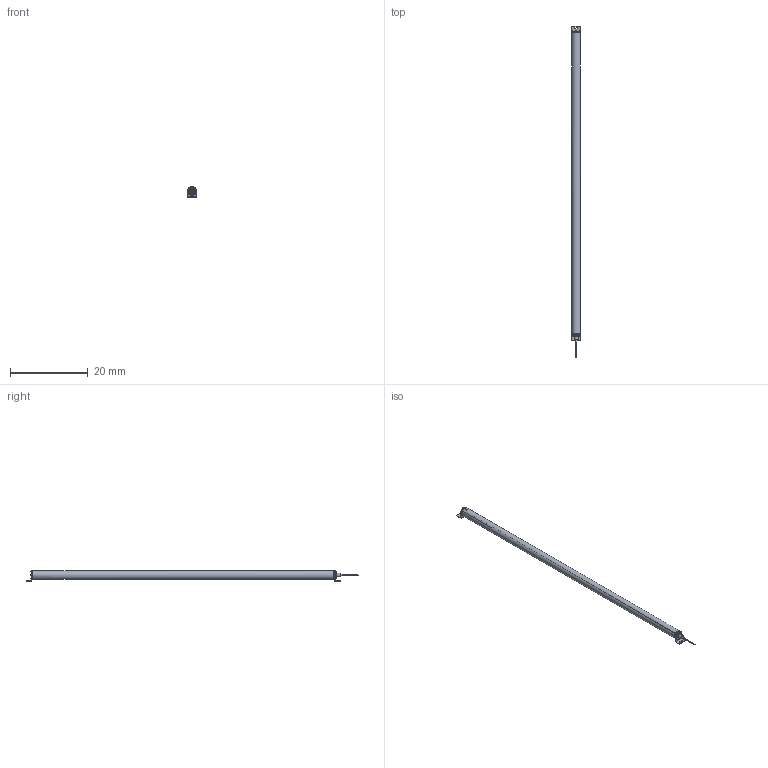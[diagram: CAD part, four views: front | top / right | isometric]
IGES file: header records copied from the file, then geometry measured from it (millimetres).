
Start section:  Autodesk DirectConnect version 7.0.27.0 ---- IGES version 5.3
Global section: file name: C:\ACADFILES\MG_PYLONS\CUSTOMER_FILES\MG-76-PYLON_3D_SMB_PT.iges; native system: Autodesk DirectConnect 7.0.27.0; preprocessor: 7.0.27.0; author: ENGINEERMAIN; organization: Unknown; date: 20150810.143500; units: millimetre
Bounding box: 2.26 x 85.44 x 2.75 mm (x, y, z)
Surface area: 2230.9 mm2 (no closed solid volume)
Topology: 0 solids, 0 shells, 784 faces, 4052 edges, 4055 vertices
Faces by surface type: bspline 784
